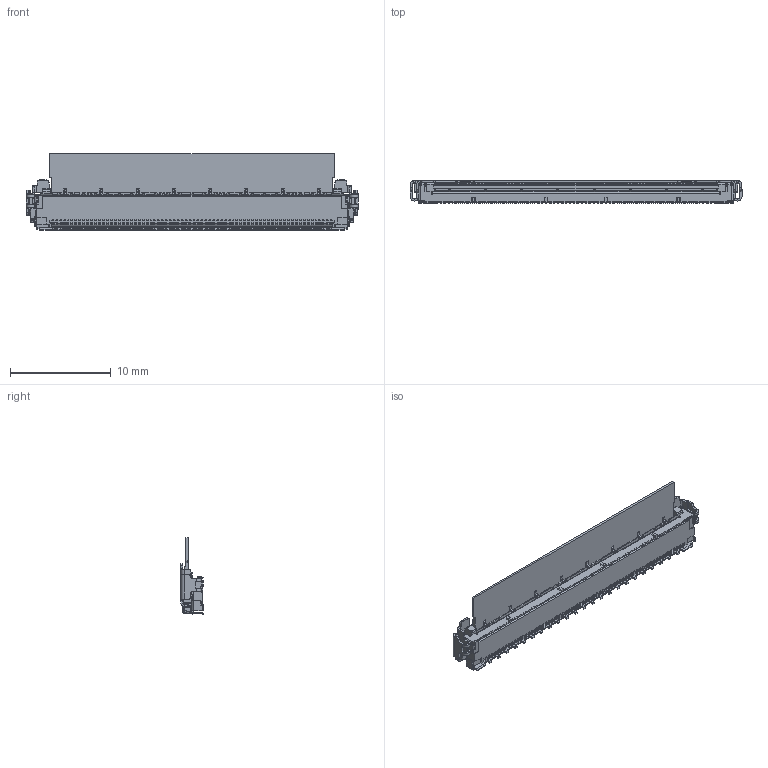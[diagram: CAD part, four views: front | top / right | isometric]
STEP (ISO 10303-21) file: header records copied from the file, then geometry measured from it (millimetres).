
FILE_DESCRIPTION (( 'STEP AP203' ), '1' );
FILE_NAME ('21102-070E-21+20879-070E-X01 MATING STEP R5R0R0R0.STEP', '2026-03-06T02:52:14', ( '' ), ( '' ), 'SwSTEP 2.0', 'SolidWorks 2023', '' );
FILE_SCHEMA (( 'CONFIG_CONTROL_DESIGN' ));
Products named in the file (1): 21102-070E-21+20879-070E-X01 MATING STEP R5R0R0R0
Bounding box: 33 x 2.2 x 7.61 mm (x, y, z)
Volume: 225.5 mm3; surface area: 970.6 mm2
Topology: 1 solids, 1 shells, 2559 faces, 7612 edges, 5016 vertices
Faces by surface type: plane 1801, cylinder 756, cone 2
Entity records: 85540 total; most frequent: CARTESIAN_POINT 15563, ORIENTED_EDGE 15224, DIRECTION 14150, EDGE_CURVE 7612, LINE 5950, VECTOR 5950, VERTEX_POINT 5016, AXIS2_PLACEMENT_3D 4100
